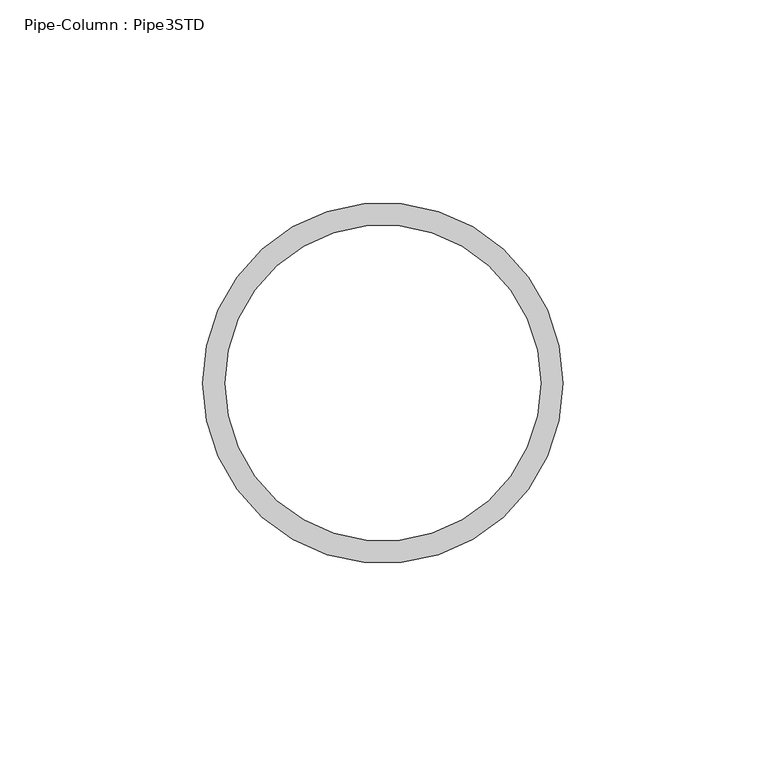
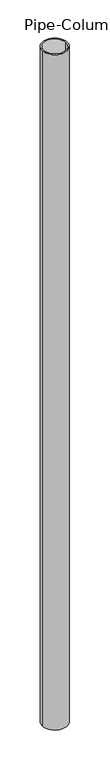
"""IFC4 building model written with IfcOpenShell, lengths in millimetres: column geometry, Pipe-Column : Pipe3STD."""

from ifc_helpers import new_model, si_unit, point, frame, origin, origin_2d, place, context, project, spatial, circle_curve, trimmed, segment, composite_curve, outline, extrude, source, transform, mapped, element, save


def pipe_column_pipe3std_b7f71c59(model_context):
    return source(origin(), model_context, "Body", "SweptSolid", [
        extrude(outline(composite_curve([segment(trimmed(circle_curve(origin_2d(), 44.45), [point((-44.45, 0.0))], [point((44.45, 0.0))], False, "CARTESIAN"), True, "CONTINUOUS"), segment(trimmed(circle_curve(origin_2d(), 44.45), [point((44.45, 0.0))], [point((-44.45, 0.0))], False, "CARTESIAN"), True, "CONTINUOUS")], self_intersect=False), holes=[composite_curve([segment(trimmed(circle_curve(origin_2d(), 38.9636), [point((-38.9636, 0.0))], [point((38.9636, 0.0))], True, "CARTESIAN"), True, "CONTINUOUS"), segment(trimmed(circle_curve(origin_2d(), 38.9636), [point((38.9636, 0.0))], [point((-38.9636, 0.0))], True, "CARTESIAN"), True, "CONTINUOUS")], self_intersect=False)]), frame((0.0, 0.0, -1657.35), z_axis=(0.0, 0.0, 1.0), x_axis=(1.0, 0.0, 0.0)), (0.0, 0.0, 1.0), 2514.6),
    ])


if __name__ == "__main__":
    model = new_model("IFC4")
    model_context = context("Model", 3, world=origin())
    ifc_project = project(units=[si_unit("LENGTHUNIT", "METRE", prefix="MILLI")], contexts=[model_context])
    site = spatial("IfcSite", under=ifc_project)
    building = spatial("IfcBuilding", under=site)
    placement = place(None, origin())
    pipe_column_pipe3std_shape = pipe_column_pipe3std_b7f71c59(model_context)
    element("IfcColumn", 1, ObjectType="Pipe-Column : Pipe3STD", at=placement, inside=building, context=model_context, shape_type="MappedRepresentation", body=[
        mapped(pipe_column_pipe3std_shape, transform((0.0, 0.0, 0.0), x_axis=(1.0, 0.0, 0.0), y_axis=(0.0, 1.0, 0.0), z_axis=(0.0, 0.0, 1.0))),
    ])
    save(model, "model.ifc")
